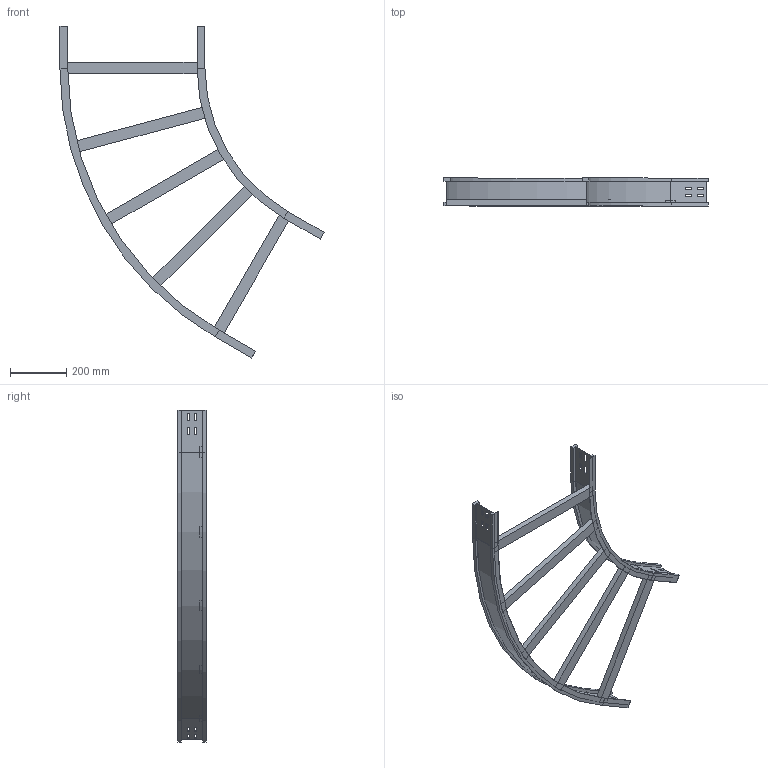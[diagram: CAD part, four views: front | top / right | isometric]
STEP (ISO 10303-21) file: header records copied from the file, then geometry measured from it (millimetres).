
FILE_DESCRIPTION (( 'STEP AP214' ), '1' );
FILE_NAME ('13S6D500.step', '2025-02-21T16:07:01', ( '' ), ( '' ), 'SwSTEP 2.0', 'SolidWorks 2023', '' );
FILE_SCHEMA (( 'AUTOMOTIVE_DESIGN' ));
Length unit declared in the file: millimetre
Products named in the file (4): 13S6D500; TRAVERSINO_500; LONGH.INTERNO 60°_H100_R600; LONGH.ESTERNO 60°_H100_R600+500
Assembly tree (7 placements, depth 2):
  13S6D500
    LONGH.INTERNO 60°_H100_R600
    LONGH.ESTERNO 60°_H100_R600+500
    TRAVERSINO_500  x5
Bounding box: 943.4 x 100 x 1185.42 mm (x, y, z)
Volume: 3269570.1 mm3; surface area: 1012268 mm2
Topology: 7 solids, 7 shells, 170 faces, 420 edges, 264 vertices
Faces by surface type: plane 158, cylinder 12
Entity records: 4493 total; most frequent: CARTESIAN_POINT 760, ORIENTED_EDGE 744, DIRECTION 708, EDGE_CURVE 372, LINE 348, VECTOR 348, VERTEX_POINT 232, AXIS2_PLACEMENT_3D 180
